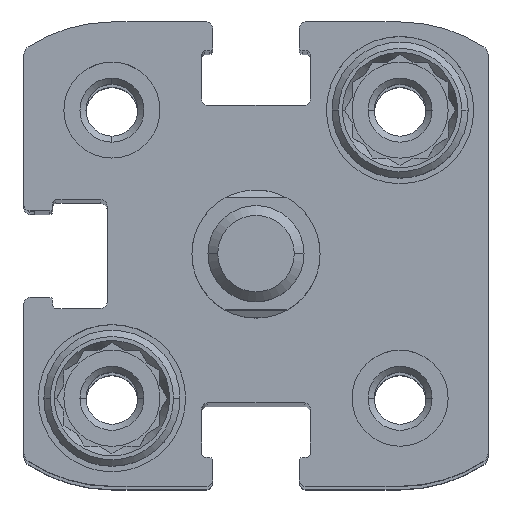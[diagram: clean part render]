
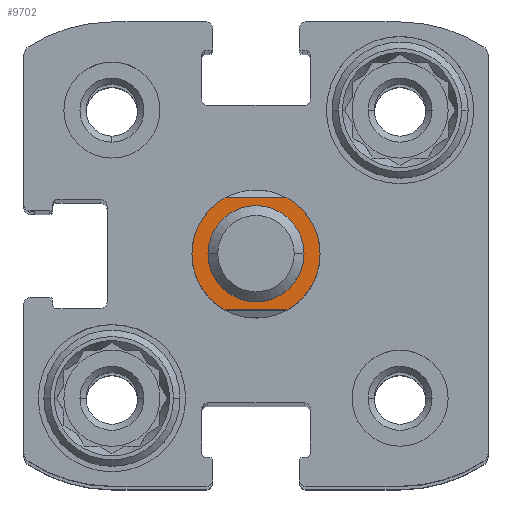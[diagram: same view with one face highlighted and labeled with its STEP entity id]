
A CAD part, top view. The second image highlights one B-rep face of the part: STEP entity #9702.
In plain terms, the highlighted planar face has unit normal (0, 0, 1).
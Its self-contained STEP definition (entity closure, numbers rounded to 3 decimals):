
#131 = DIRECTION ( 'NONE',  ( 0., 0., -1. ) ) ;
#193 = EDGE_CURVE ( 'NONE', #11139, #1164, #3108, .T. ) ;
#459 = ORIENTED_EDGE ( 'NONE', *, *, #742, .T. ) ;
#460 = DIRECTION ( 'NONE',  ( 0., -1., 0. ) ) ;
#669 = VECTOR ( 'NONE', #5455, 1000. ) ;
#742 = EDGE_CURVE ( 'NONE', #5756, #8583, #9660, .T. ) ;
#852 = DIRECTION ( 'NONE',  ( -1., 0., 0. ) ) ;
#1164 = VERTEX_POINT ( 'NONE', #9124 ) ;
#1299 = CARTESIAN_POINT ( 'NONE',  ( 2.65, 0., 5.35 ) ) ;
#1382 = EDGE_CURVE ( 'NONE', #4187, #11139, #10055, .T. ) ;
#1404 = DIRECTION ( 'NONE',  ( 1., 0., 0. ) ) ;
#1414 = CARTESIAN_POINT ( 'NONE',  ( 0., 0., 5.35 ) ) ;
#1671 = EDGE_CURVE ( 'NONE', #8583, #5756, #2539, .T. ) ;
#2207 = DIRECTION ( 'NONE',  ( 1., 0., 0. ) ) ;
#2219 = ORIENTED_EDGE ( 'NONE', *, *, #1671, .T. ) ;
#2539 = CIRCLE ( 'NONE', #9772, 2.65 ) ;
#2561 = EDGE_CURVE ( 'NONE', #6101, #4187, #2774, .T. ) ;
#2619 = CARTESIAN_POINT ( 'NONE',  ( 0., 0., 5.35 ) ) ;
#2633 = ORIENTED_EDGE ( 'NONE', *, *, #1382, .F. ) ;
#2774 = CIRCLE ( 'NONE', #8876, 4. ) ;
#2831 = AXIS2_PLACEMENT_3D ( 'NONE', #2619, #9722, #6258 ) ;
#3108 = LINE ( 'NONE', #4621, #669 ) ;
#3849 = CARTESIAN_POINT ( 'NONE',  ( -1.936, 3.5, 5.35 ) ) ;
#3986 = CARTESIAN_POINT ( 'NONE',  ( 1.936, -3.5, 5.35 ) ) ;
#4046 = DIRECTION ( 'NONE',  ( 0., 0., -1. ) ) ;
#4074 = ORIENTED_EDGE ( 'NONE', *, *, #5887, .F. ) ;
#4186 = CARTESIAN_POINT ( 'NONE',  ( 0., 0., 5.35 ) ) ;
#4187 = VERTEX_POINT ( 'NONE', #5126 ) ;
#4249 = ORIENTED_EDGE ( 'NONE', *, *, #11261, .F. ) ;
#4621 = CARTESIAN_POINT ( 'NONE',  ( 0., 3.5, 5.35 ) ) ;
#4694 = AXIS2_PLACEMENT_3D ( 'NONE', #10471, #10347, #1404 ) ;
#4848 = VERTEX_POINT ( 'NONE', #6639 ) ;
#5126 = CARTESIAN_POINT ( 'NONE',  ( -4., 0., 5.35 ) ) ;
#5184 = DIRECTION ( 'NONE',  ( 0., 0., -1. ) ) ;
#5455 = DIRECTION ( 'NONE',  ( 1., 0., 0. ) ) ;
#5518 = DIRECTION ( 'NONE',  ( 1., 0., 0. ) ) ;
#5713 = FACE_BOUND ( 'NONE', #10730, .T. ) ;
#5756 = VERTEX_POINT ( 'NONE', #1299 ) ;
#5774 = DIRECTION ( 'NONE',  ( 1., 0., 0. ) ) ;
#5841 = CIRCLE ( 'NONE', #11542, 4. ) ;
#5887 = EDGE_CURVE ( 'NONE', #1164, #4848, #5841, .T. ) ;
#5948 = ORIENTED_EDGE ( 'NONE', *, *, #2561, .F. ) ;
#6038 = AXIS2_PLACEMENT_3D ( 'NONE', #9319, #131, #10270 ) ;
#6101 = VERTEX_POINT ( 'NONE', #11354 ) ;
#6258 = DIRECTION ( 'NONE',  ( 1., 0., 0. ) ) ;
#6639 = CARTESIAN_POINT ( 'NONE',  ( 4., 0., 5.35 ) ) ;
#6782 = CIRCLE ( 'NONE', #4694, 4. ) ;
#7843 = CARTESIAN_POINT ( 'NONE',  ( -2.65, 0., 5.35 ) ) ;
#8178 = ORIENTED_EDGE ( 'NONE', *, *, #11121, .F. ) ;
#8574 = DIRECTION ( 'NONE',  ( 0., 0., -1. ) ) ;
#8583 = VERTEX_POINT ( 'NONE', #7843 ) ;
#8867 = CARTESIAN_POINT ( 'NONE',  ( 0., 0., 5.35 ) ) ;
#8876 = AXIS2_PLACEMENT_3D ( 'NONE', #4186, #10496, #2207 ) ;
#9124 = CARTESIAN_POINT ( 'NONE',  ( 1.936, 3.5, 5.35 ) ) ;
#9278 = CARTESIAN_POINT ( 'NONE',  ( 0., -3.5, 5.35 ) ) ;
#9319 = CARTESIAN_POINT ( 'NONE',  ( 0., 0., 5.35 ) ) ;
#9528 = FACE_OUTER_BOUND ( 'NONE', #11324, .T. ) ;
#9660 = CIRCLE ( 'NONE', #6038, 2.65 ) ;
#9702 = ADVANCED_FACE ( 'NONE', ( #9528, #5713 ), #10354, .F. ) ;
#9722 = DIRECTION ( 'NONE',  ( 0., 0., -1. ) ) ;
#9772 = AXIS2_PLACEMENT_3D ( 'NONE', #1414, #4046, #5774 ) ;
#10055 = CIRCLE ( 'NONE', #2831, 4. ) ;
#10164 = LINE ( 'NONE', #9278, #10959 ) ;
#10238 = CARTESIAN_POINT ( 'NONE',  ( 0., 0., 5.35 ) ) ;
#10270 = DIRECTION ( 'NONE',  ( 1., 0., 0. ) ) ;
#10347 = DIRECTION ( 'NONE',  ( 0., 0., -1. ) ) ;
#10354 = PLANE ( 'NONE',  #10668 ) ;
#10471 = CARTESIAN_POINT ( 'NONE',  ( 0., 0., 5.35 ) ) ;
#10496 = DIRECTION ( 'NONE',  ( 0., 0., -1. ) ) ;
#10668 = AXIS2_PLACEMENT_3D ( 'NONE', #10238, #8574, #460 ) ;
#10730 = EDGE_LOOP ( 'NONE', ( #459, #2219 ) ) ;
#10888 = VERTEX_POINT ( 'NONE', #3986 ) ;
#10959 = VECTOR ( 'NONE', #852, 1000. ) ;
#11121 = EDGE_CURVE ( 'NONE', #10888, #6101, #10164, .T. ) ;
#11139 = VERTEX_POINT ( 'NONE', #3849 ) ;
#11250 = ORIENTED_EDGE ( 'NONE', *, *, #193, .F. ) ;
#11261 = EDGE_CURVE ( 'NONE', #4848, #10888, #6782, .T. ) ;
#11324 = EDGE_LOOP ( 'NONE', ( #8178, #4249, #4074, #11250, #2633, #5948 ) ) ;
#11354 = CARTESIAN_POINT ( 'NONE',  ( -1.936, -3.5, 5.35 ) ) ;
#11542 = AXIS2_PLACEMENT_3D ( 'NONE', #8867, #5184, #5518 ) ;
